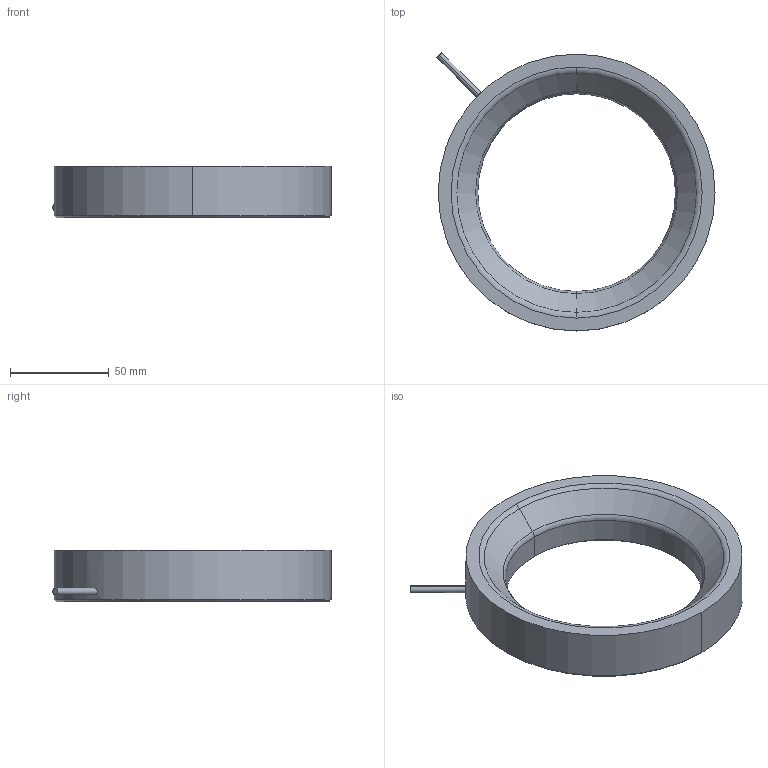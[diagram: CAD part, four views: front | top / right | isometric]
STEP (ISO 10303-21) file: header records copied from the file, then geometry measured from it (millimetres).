
FILE_DESCRIPTION((''),'2;1');
FILE_NAME('MV-LRDS-140-45','2019-09-19T',('rs-zhongwm'),(''),'PRO/ENGINEER BY PARAMETRIC TECHNOLOGY CORPORATION, 2010100','PRO/ENGINEER BY PARAMETRIC TECHNOLOGY CORPORATION, 2010100','');
FILE_SCHEMA(('CONFIG_CONTROL_DESIGN'));
Length unit declared in the file: millimetre
Products named in the file (1): MV-LRDS-140-45
Bounding box: 140.63 x 140.63 x 26 mm (x, y, z)
Volume: 170151.5 mm3; surface area: 37274.7 mm2
Topology: 1 solids, 7 shells, 69 faces, 160 edges, 92 vertices
Faces by surface type: cylinder 33, cone 25, plane 7, torus 4
Entity records: 1999 total; most frequent: CARTESIAN_POINT 442, DIRECTION 340, ORIENTED_EDGE 288, EDGE_CURVE 144, AXIS2_PLACEMENT_3D 143, VERTEX_POINT 92, EDGE_LOOP 78, CIRCLE 74
